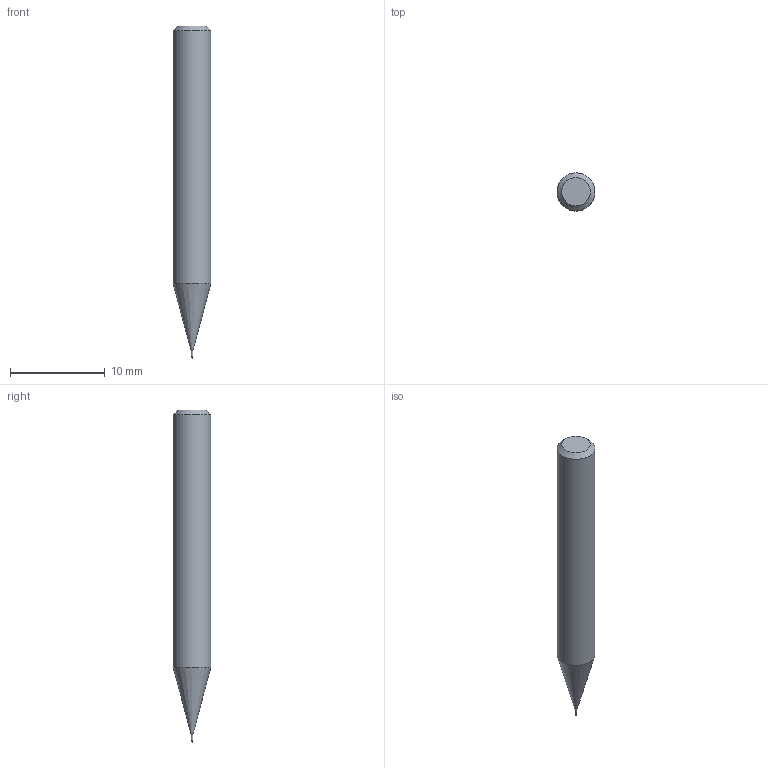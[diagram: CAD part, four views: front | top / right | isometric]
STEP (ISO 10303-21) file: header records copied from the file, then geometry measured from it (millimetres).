
FILE_DESCRIPTION((''),'2;1');
FILE_NAME('C:\Users\nsx150\AppData\Local\Temp\Mastercam 2021\QT8KEW0Y7J\TEMP.step','2021-04-23T11:20:18',(''),(''),'STEP Write','Mastercam 2021 ... CNC Software, Inc.','');
FILE_SCHEMA(('AUTOMOTIVE_DESIGN'));
Length unit declared in the file: millimetre
Products named in the file (1): None
Bounding box: 4 x 4 x 35 mm (x, y, z)
Volume: 370.7 mm3; surface area: 398.3 mm2
Topology: 2 solids, 2 shells, 9 faces, 14 edges, 8 vertices
Faces by surface type: plane 3, cylinder 3, cone 2, sphere 1
Full cylindrical faces by diameter (mm): 0.18 x1, 0.2 x1, 4 x1
Entity records: 211 total; most frequent: DIRECTION 36, CARTESIAN_POINT 25, AXIS2_PLACEMENT_3D 18, ORIENTED_EDGE 14, EDGE_LOOP 14, STYLED_ITEM 12, ADVANCED_FACE 9, FACE_BOUND 8
